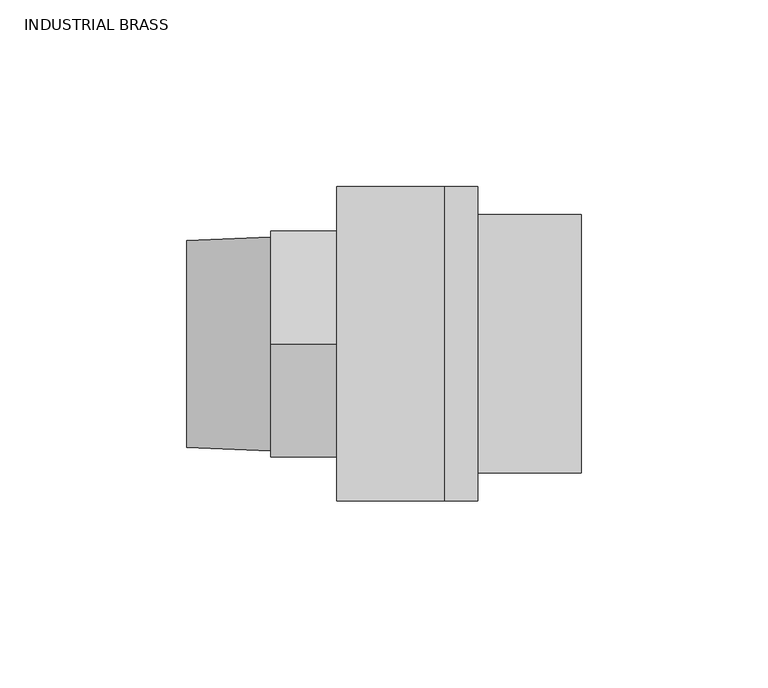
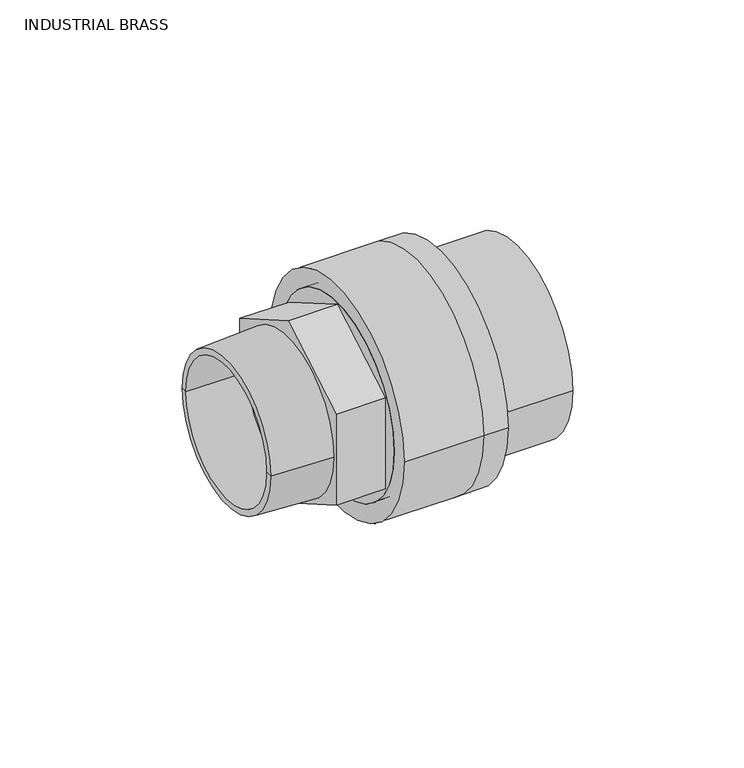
"""IFC4 building model written with IfcOpenShell, lengths in millimetres: valve geometry, Aquatherm - Transition Piece - M HEX : INDUSTRIAL BRASS."""

import ifcopenshell
import ifcopenshell.guid

model = None  # the IFC model being written
_history = None  # IfcOwnerHistory: only IFC2X3 demands one
_inside = {}  # id of a spatial element -> (the spatial element, [elements in it])
_under = {}  # id of a project, library or spatial element -> (it, [spatial elements below it])
_declared = {}  # id of a project -> (the project, [libraries it declares])
_typed = {}  # id of a type object -> (the type object, [elements of that type])
_made_of = {}  # id of a material, layer set ... -> (it, [elements and type objects made of it])


def new_model(schema):
    """Start an empty IFC model of exactly this schema.

    Asked for "IFC4X3", IfcOpenShell would pick the latest addendum, in which some entities
    have other attributes; the version numbers below select the first issue.
    IFC2X3 requires an IfcOwnerHistory on every rooted entity: one is made here for all.
    """
    global model, _history
    if schema == "IFC4X3":
        model = ifcopenshell.file(schema_version=(4, 3, 0, 0))
    else:
        model = ifcopenshell.file(schema=schema)
    _inside.clear()
    _under.clear()
    _declared.clear()
    _typed.clear()
    _made_of.clear()
    _history = None
    if model.schema == "IFC2X3":
        org = make("IfcOrganization", Name="unknown")
        user = make(
            "IfcPersonAndOrganization",
            ThePerson=make("IfcPerson", FamilyName="unknown"),
            TheOrganization=org,
        )
        app = make(
            "IfcApplication",
            ApplicationDeveloper=org,
            Version="unknown",
            ApplicationFullName="unknown",
            ApplicationIdentifier="unknown",
        )
        _history = make(
            "IfcOwnerHistory",
            OwningUser=user,
            OwningApplication=app,
            ChangeAction="ADDED",
            CreationDate=0,
        )
    return model


def make(cls, **values):
    """One entity of the class cls with the attributes given. An attribute that is None is left unset."""
    return model.create_entity(
        cls, **{name: value for name, value in values.items() if value is not None}
    )


def rooted(cls, **values):
    """An entity with a GlobalId (a new one), such as an element, a storey or a relation."""
    return make(cls, GlobalId=ifcopenshell.guid.new(), OwnerHistory=_history, **values)


def si_unit(unit_type, name, prefix=None):
    """IfcSIUnit, for example si_unit("LENGTHUNIT", "METRE", prefix="MILLI")."""
    return make("IfcSIUnit", UnitType=unit_type, Prefix=prefix, Name=name)


def assignment(units):
    """IfcUnitAssignment: the units of a project."""
    return None if units is None else make("IfcUnitAssignment", Units=units)


def point(xyz):
    """IfcCartesianPoint."""
    return None if xyz is None else make("IfcCartesianPoint", Coordinates=xyz)


def direction(xyz):
    """IfcDirection."""
    return None if xyz is None else make("IfcDirection", DirectionRatios=xyz)


def frame(location, z_axis=None, x_axis=None):
    """IfcAxis2Placement3D, a coordinate frame: its origin and axes. An axis left out is left unset."""
    return make(
        "IfcAxis2Placement3D",
        Location=point(location),
        Axis=direction(z_axis),
        RefDirection=direction(x_axis),
    )


def origin():
    """The frame at (0, 0, 0) with its axes left unset."""
    return frame((0.0, 0.0, 0.0))


def place(relative_to, where):
    """IfcLocalPlacement: puts the frame where relative to a parent placement (None: the world)."""
    return make(
        "IfcLocalPlacement", PlacementRelTo=relative_to, RelativePlacement=where
    )


def context(
    kind, dimensions, precision=None, world=None, true_north=None, identifier=None
):
    """IfcGeometricRepresentationContext, for example the 3D "Model" context."""
    return make(
        "IfcGeometricRepresentationContext",
        ContextIdentifier=identifier,
        ContextType=kind,
        CoordinateSpaceDimension=dimensions,
        Precision=precision,
        WorldCoordinateSystem=world,
        TrueNorth=true_north,
    )


def project(units=None, contexts=None):
    """IfcProject with its units and contexts."""
    return rooted(
        "IfcProject",
        Name="project",
        RepresentationContexts=contexts,
        UnitsInContext=assignment(units),
    )


def spatial(cls, under=None, at=None, **own):
    """A site, building, storey or space (cls), placed at a placement, below another one or the project."""
    s = rooted(cls, ObjectPlacement=at, **own)
    if under is not None:
        _under.setdefault(under.id(), (under, []))[1].append(s)
    return s


def polyline(points):
    """IfcPolyline through the points."""
    return make("IfcPolyline", Points=[point(p) for p in points])


def circle_curve(where, radius):
    """IfcCircle in the frame where."""
    return make("IfcCircle", Position=where, Radius=radius)


def shape(context_of_items, identifier, shape_type, items):
    """IfcShapeRepresentation: the items that make up one representation, for example the "Body"."""
    return make(
        "IfcShapeRepresentation",
        ContextOfItems=context_of_items,
        RepresentationIdentifier=identifier,
        RepresentationType=shape_type,
        Items=items,
    )


def source(mapping_origin, context_of_items, identifier, shape_type, items):
    """IfcRepresentationMap: a shape defined once, which mapped items show again and again."""
    return make(
        "IfcRepresentationMap",
        MappingOrigin=mapping_origin,
        MappedRepresentation=shape(context_of_items, identifier, shape_type, items),
    )


def transform(
    local_origin,
    x_axis=None,
    y_axis=None,
    z_axis=None,
    scale=None,
    scale2=None,
    scale3=None,
    uniform=True,
):
    """IfcCartesianTransformationOperator3D, or its non-uniform kind. x_axis, y_axis, z_axis: its Axis1, 2, 3."""
    if uniform:
        return make(
            "IfcCartesianTransformationOperator3D",
            Axis1=direction(x_axis),
            Axis2=direction(y_axis),
            LocalOrigin=point(local_origin),
            Scale=scale,
            Axis3=direction(z_axis),
        )
    return make(
        "IfcCartesianTransformationOperator3DnonUniform",
        Axis1=direction(x_axis),
        Axis2=direction(y_axis),
        LocalOrigin=point(local_origin),
        Scale=scale,
        Axis3=direction(z_axis),
        Scale2=scale2,
        Scale3=scale3,
    )


def mapped(mapping_source, mapping_target):
    """IfcMappedItem: shows the shape of a source again, moved by a transform."""
    return make(
        "IfcMappedItem", MappingSource=mapping_source, MappingTarget=mapping_target
    )


def made_of(thing, what):
    """Note that an element or type object is made of a material, layer set ...; save() writes the relation."""
    if what is not None:
        _made_of.setdefault(what.id(), (what, []))[1].append(thing)
    return thing


def element(
    cls,
    number,
    at=None,
    inside=None,
    cuts=None,
    type_object=None,
    material=None,
    context=None,
    identifier="Body",
    shape_type=None,
    held_by="IfcProductDefinitionShape",
    body=None,
    shapes=None,
    **own,
):
    """One element of the class cls, such as IfcWall. Its Tag is "e" and its number.

    at: its placement. inside: the storey or other place that contains it. cuts: it is an
    opening in that element (IfcRelVoidsElement). A single representation is given by context,
    identifier, shape_type and body (its items); several are given by shapes. held_by: the class
    of the entity that holds the representations. save() writes the other relations.
    """
    e = rooted(cls, Tag="e%d" % number, ObjectPlacement=at, **own)
    if body is not None:
        shapes = [shape(context, identifier, shape_type, body)]
    if shapes is not None:
        e.Representation = make(held_by, Representations=shapes)
    if inside is not None:
        _inside.setdefault(inside.id(), (inside, []))[1].append(e)
    if cuts is not None:
        rooted(
            "IfcRelVoidsElement", RelatingBuildingElement=cuts, RelatedOpeningElement=e
        )
    if type_object is not None:
        _typed.setdefault(type_object.id(), (type_object, []))[1].append(e)
    return made_of(e, material)


def aggregate(whole, parts):
    """IfcRelAggregates: a whole, such as a stair, and the parts it consists of."""
    return rooted("IfcRelAggregates", RelatingObject=whole, RelatedObjects=parts)


def save(model, path):
    """Write the relations noted so far, then the file.

    IfcRelAggregates (storeys below a building ...), IfcRelContainedInSpatialStructure (elements
    in a storey), IfcRelDefinesByType, IfcRelAssociatesMaterial and IfcRelDeclares: one each for
    every whole, place, type object, material and project.
    """
    for whole, parts in _under.values():
        aggregate(whole, parts)
    for where, things in _inside.values():
        rooted(
            "IfcRelContainedInSpatialStructure",
            RelatedElements=things,
            RelatingStructure=where,
        )
    for kind, things in _typed.values():
        rooted("IfcRelDefinesByType", RelatedObjects=things, RelatingType=kind)
    for what, things in _made_of.values():
        rooted("IfcRelAssociatesMaterial", RelatedObjects=things, RelatingMaterial=what)
    for by, libraries in _declared.values():
        rooted("IfcRelDeclares", RelatingContext=by, RelatedDefinitions=libraries)
    model.write(path)


def plane_surface(at):
    """IfcPlane: the flat surface through the origin of the frame at, square to its z axis."""
    return make("IfcPlane", Position=at)


def cylinder_surface(at, radius):
    """IfcCylindricalSurface: all points at the distance radius from the z axis of the frame at."""
    return make("IfcCylindricalSurface", Position=at, Radius=radius)


def revolved_surface(curve, axis_point, axis_direction):
    """IfcSurfaceOfRevolution: the curve turned about the line through axis_point along axis_direction."""
    return make(
        "IfcSurfaceOfRevolution",
        SweptCurve=make("IfcArbitraryOpenProfileDef", ProfileType="CURVE", Curve=curve),
        AxisPosition=make("IfcAxis1Placement", Location=point(axis_point), Axis=direction(axis_direction)),
    )


def advanced_brep(points, edges, surfaces, faces):
    """IfcAdvancedBrep: a solid bounded by faces that lie on surfaces and meet in shared edges.

    An edge is (start, end): straight between two places in points (the first is 0);
    or (start, end, curve); or (start, end, curve, False) where it runs against its curve.
    A face is (place in surfaces, loops), or (place, loops, False) where it looks against
    its surface's normal. A loop lists edges by number (the first is 1), with a minus sign
    where the edge is run from its end to its start. The first loop is the outer one.
    """
    corners = [point(p) for p in points]
    vertices = [make("IfcVertexPoint", VertexGeometry=c) for c in corners]
    made = []
    for start, end, *more in edges:
        made.append(
            make(
                "IfcEdgeCurve",
                EdgeStart=vertices[start],
                EdgeEnd=vertices[end],
                EdgeGeometry=more[0] if more else make("IfcPolyline", Points=[corners[start], corners[end]]),
                SameSense=more[1] if len(more) > 1 else True,
            )
        )
    hull = []
    for where, loops, *sense in faces:
        bounds = []
        for j, loop in enumerate(loops):
            ring = [make("IfcOrientedEdge", EdgeElement=made[abs(k) - 1], Orientation=k > 0) for k in loop]
            bounds.append(
                make(
                    "IfcFaceOuterBound" if j == 0 else "IfcFaceBound",
                    Bound=make("IfcEdgeLoop", EdgeList=ring),
                    Orientation=True,
                )
            )
        hull.append(make("IfcAdvancedFace", Bounds=bounds, FaceSurface=surfaces[where], SameSense=sense[0] if sense else True))
    return make("IfcAdvancedBrep", Outer=make("IfcClosedShell", CfsFaces=hull))


def industrial_brass_ecae0ea0(model_context):
    return source(origin(), model_context, "Body", "AdvancedBrep", [
        advanced_brep(
        [(28.702, -35.56, 0.0), (28.702, 35.56, 0.0), (28.702, -25.4, 0.0), (28.702, 25.4, 0.0), (0.0, -35.56, 0.0), (0.0, 35.56, 0.0), (0.0, 0.0, -34.9019785), (0.0, 30.226, -17.4509892), (0.0, 30.226, 17.4509892), (0.0, 0.0, 34.9019785), (0.0, -30.226, 17.4509892), (0.0, -30.226, -17.4509892), (0.0, -25.4, 0.0), (0.0, 25.4, 0.0), (-17.78, 0.0, -34.9019785), (-17.78, -30.226, -17.4509892), (-17.78, -30.226, 17.4509892), (-17.78, 0.0, 34.9019785), (-17.78, 30.226, 17.4509892), (-17.78, 30.226, -17.4509892), (-17.78, -28.6440302, 0.0), (-17.78, 28.6440302, 0.0), (-17.78, -25.4, 0.0), (-17.78, 25.4, 0.0), (-40.132, 25.4, 0.0), (-40.132, -25.4, 0.0), (-40.132, 27.7122198, 0.0), (-40.132, -27.7122198, 0.0)],
        [
            (0, 1, circle_curve(frame((28.702, 0.0, 0.0), z_axis=(1.0, 0.0, 0.0), x_axis=(0.0, 1.0, 0.0)), 35.56)),
            (1, 0, circle_curve(frame((28.702, 0.0, 0.0), z_axis=(1.0, 0.0, 0.0), x_axis=(0.0, 1.0, 0.0)), 35.56)),
            (2, 3, circle_curve(frame((28.702, 0.0, 0.0), z_axis=(-1.0, 0.0, 0.0), x_axis=(0.0, 1.0, 0.0)), 25.4)),
            (3, 2, circle_curve(frame((28.702, 0.0, 0.0), z_axis=(-1.0, 0.0, 0.0), x_axis=(0.0, 1.0, 0.0)), 25.4)),
            (4, 5, circle_curve(frame((0.0, 0.0, 0.0), z_axis=(-1.0, 0.0, 0.0), x_axis=(0.0, 1.0, 0.0)), 35.56)),
            (5, 4, circle_curve(frame((0.0, 0.0, 0.0), z_axis=(-1.0, 0.0, 0.0), x_axis=(0.0, 1.0, 0.0)), 35.56)),
            (6, 7),
            (7, 8),
            (8, 9),
            (9, 10),
            (10, 11),
            (11, 6),
            (0, 4),
            (5, 1),
            (2, 12),
            (12, 13, circle_curve(frame((0.0, 0.0, 0.0), z_axis=(-1.0, 0.0, 0.0), x_axis=(0.0, 1.0, 0.0)), 25.4)),
            (13, 3),
            (13, 12, circle_curve(frame((0.0, 0.0, 0.0), z_axis=(-1.0, 0.0, 0.0), x_axis=(0.0, 1.0, 0.0)), 25.4)),
            (14, 15),
            (15, 16),
            (16, 17),
            (17, 18),
            (18, 19),
            (19, 14),
            (20, 21, circle_curve(frame((-17.78, 0.0, 0.0), z_axis=(1.0, 0.0, 0.0), x_axis=(0.0, 1.0, 0.0)), 28.6440302)),
            (21, 20, circle_curve(frame((-17.78, 0.0, 0.0), z_axis=(1.0, 0.0, 0.0), x_axis=(0.0, 1.0, 0.0)), 28.6440302)),
            (19, 7),
            (6, 14),
            (18, 8),
            (17, 9),
            (16, 10),
            (15, 11),
            (12, 22),
            (22, 23, circle_curve(frame((-17.78, 0.0, 0.0), z_axis=(-1.0, 0.0, 0.0), x_axis=(0.0, 1.0, 0.0)), 25.4)),
            (23, 13),
            (23, 22, circle_curve(frame((-17.78, 0.0, 0.0), z_axis=(-1.0, 0.0, 0.0), x_axis=(0.0, 1.0, 0.0)), 25.4)),
            (23, 24),
            (24, 25, circle_curve(frame((-40.132, 0.0, 0.0), z_axis=(-1.0, 0.0, 0.0), x_axis=(0.0, 1.0, 0.0)), 25.4)),
            (25, 22),
            (25, 24, circle_curve(frame((-40.132, 0.0, 0.0), z_axis=(-1.0, 0.0, 0.0), x_axis=(0.0, 1.0, 0.0)), 25.4)),
            (24, 26),
            (26, 27, circle_curve(frame((-40.132, 0.0, 0.0), z_axis=(-1.0, 0.0, 0.0), x_axis=(0.0, 1.0, 0.0)), 27.7122198)),
            (27, 25),
            (27, 26, circle_curve(frame((-40.132, 0.0, 0.0), z_axis=(-1.0, 0.0, 0.0), x_axis=(0.0, 1.0, 0.0)), 27.7122198)),
            (26, 21),
            (20, 27),
        ],
        [
            plane_surface(frame((28.702, 35.56, 0.0), z_axis=(1.0, 0.0, 0.0), x_axis=(0.0, 0.0, 1.0))),
            plane_surface(frame((0.0, 35.56, 0.0), z_axis=(-1.0, 0.0, 0.0), x_axis=(0.0, 0.0, -1.0))),
            cylinder_surface(frame((0.0, 0.0, 0.0), z_axis=(1.0, 0.0, 0.0), x_axis=(0.0, 1.0, 0.0)), 35.56),
            revolved_surface(polyline([(0.0, 25.4, 0.0), (28.702, 25.4, 0.0)]), (17.447219, 0.0, 0.0), (-1.0, 0.0, 0.0)),
            plane_surface(frame((-17.78, 0.0, -34.9019785), z_axis=(-1.0, 0.0, 0.0), x_axis=(0.0, -0.8660254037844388, -0.4999999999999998))),
            plane_surface(frame((0.0, 0.0, -34.9019785), z_axis=(0.0, 0.4999999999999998, -0.8660254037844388), x_axis=(-1.0, 0.0, 0.0))),
            plane_surface(frame((0.0, 30.226, -17.4509892), z_axis=(0.0, 1.0, 0.0), x_axis=(-1.0, 0.0, 0.0))),
            plane_surface(frame((0.0, 30.226, 17.4509892), z_axis=(0.0, 0.4999999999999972, 0.8660254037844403), x_axis=(-1.0, 0.0, 0.0))),
            plane_surface(frame((0.0, 0.0, 34.9019785), z_axis=(0.0, -0.5000000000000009, 0.8660254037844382), x_axis=(-1.0, 0.0, 0.0))),
            plane_surface(frame((0.0, -30.226, 17.4509892), z_axis=(0.0, -1.0, 0.0), x_axis=(-1.0, 0.0, 0.0))),
            plane_surface(frame((0.0, -30.226, -17.4509892), z_axis=(0.0, -0.4999999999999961, -0.8660254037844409), x_axis=(-1.0, 0.0, 0.0))),
            revolved_surface(polyline([(-17.78, 25.4, 0.0), (0.0, 25.4, 0.0)]), (0.0, 0.0, 0.0), (-1.0, 0.0, 0.0)),
            revolved_surface(polyline([(-40.132, 25.4, 0.0), (-17.78, 25.4, 0.0)]), (-75.0050688, 0.0, 0.0), (-1.0, 0.0, 0.0)),
            plane_surface(frame((-40.132, 0.0, 0.0), z_axis=(-1.0, 0.0, 0.0), x_axis=(0.0, 1.0, 0.0))),
            revolved_surface(polyline([(-17.78, 28.6440302, 0.0), (-40.132, 27.7122198, 0.0)]), (-75.0050688, 0.0, 0.0), (-1.0, 0.0, 0.0)),
        ],
        [
            (0, [[1, 2], [3, 4]]),
            (1, [[5, 6], [7, 8, 9, 10, 11, 12]]),
            (2, [[-1, 13, -6, 14]]),
            (2, [[-2, -14, -5, -13]]),
            (3, [[-3, 15, 16, 17]]),
            (3, [[-4, -17, 18, -15]]),
            (4, [[19, 20, 21, 22, 23, 24], [25, 26]]),
            (5, [[-24, 27, -7, 28]]),
            (6, [[-23, 29, -8, -27]]),
            (7, [[-22, 30, -9, -29]]),
            (8, [[-21, 31, -10, -30]]),
            (9, [[-20, 32, -11, -31]]),
            (10, [[-19, -28, -12, -32]]),
            (11, [[33, 34, 35, -16]]),
            (11, [[-33, -18, -35, 36]]),
            (12, [[37, 38, 39, -36]]),
            (12, [[-37, -34, -39, 40]]),
            (13, [[-38, 41, 42, 43]]),
            (13, [[-40, -43, 44, -41]]),
            (14, [[-42, 45, -25, 46]]),
            (14, [[-44, -46, -26, -45]]),
        ],
    ),
        advanced_brep(
        [(0.0, -42.037, 0.0), (0.0, 42.037, 0.0), (0.0, -35.56, 0.0), (0.0, 35.56, 0.0), (28.702, 42.037, 0.0), (28.702, -42.037, 0.0), (28.702, 35.56, 0.0), (28.702, -35.56, 0.0), (37.592, -42.037, 0.0), (37.592, 42.037, 0.0), (37.592, 34.544, 0.0), (37.592, -34.544, 0.0), (37.592, 31.496, 0.0), (37.592, -31.496, 0.0), (37.592, -25.4, 0.0), (37.592, 25.4, 0.0), (28.702, -25.4, 0.0), (28.702, 25.4, 0.0), (65.278, -34.544, 0.0), (65.278, 34.544, 0.0), (65.278, -31.496, 0.0), (65.278, 31.496, 0.0)],
        [
            (0, 1, circle_curve(frame((0.0, 0.0, 0.0), z_axis=(-1.0, 0.0, 0.0), x_axis=(0.0, 1.0, 0.0)), 42.037)),
            (1, 0, circle_curve(frame((0.0, 0.0, 0.0), z_axis=(-1.0, 0.0, 0.0), x_axis=(0.0, 1.0, 0.0)), 42.037)),
            (2, 3, circle_curve(frame((0.0, 0.0, 0.0), z_axis=(1.0, 0.0, 0.0), x_axis=(0.0, 1.0, 0.0)), 35.56)),
            (3, 2, circle_curve(frame((0.0, 0.0, 0.0), z_axis=(1.0, 0.0, 0.0), x_axis=(0.0, 1.0, 0.0)), 35.56)),
            (1, 4),
            (4, 5, circle_curve(frame((28.702, 0.0, 0.0), z_axis=(-1.0, 0.0, 0.0), x_axis=(0.0, 1.0, 0.0)), 42.037)),
            (5, 0),
            (5, 4, circle_curve(frame((28.702, 0.0, 0.0), z_axis=(-1.0, 0.0, 0.0), x_axis=(0.0, 1.0, 0.0)), 42.037)),
            (3, 6),
            (6, 7, circle_curve(frame((28.702, 0.0, 0.0), z_axis=(1.0, 0.0, 0.0), x_axis=(0.0, 1.0, 0.0)), 35.56)),
            (7, 2),
            (7, 6, circle_curve(frame((28.702, 0.0, 0.0), z_axis=(1.0, 0.0, 0.0), x_axis=(0.0, 1.0, 0.0)), 35.56)),
            (8, 9, circle_curve(frame((37.592, 0.0, 0.0), z_axis=(1.0, 0.0, 0.0), x_axis=(0.0, 1.0, 0.0)), 42.037)),
            (9, 8, circle_curve(frame((37.592, 0.0, 0.0), z_axis=(1.0, 0.0, 0.0), x_axis=(0.0, 1.0, 0.0)), 42.037)),
            (10, 11, circle_curve(frame((37.592, 0.0, 0.0), z_axis=(-1.0, 0.0, 0.0), x_axis=(0.0, 1.0, 0.0)), 34.544)),
            (11, 10, circle_curve(frame((37.592, 0.0, 0.0), z_axis=(-1.0, 0.0, 0.0), x_axis=(0.0, 1.0, 0.0)), 34.544)),
            (12, 13, circle_curve(frame((37.592, 0.0, 0.0), z_axis=(1.0, 0.0, 0.0), x_axis=(0.0, 1.0, 0.0)), 31.496)),
            (13, 12, circle_curve(frame((37.592, 0.0, 0.0), z_axis=(1.0, 0.0, 0.0), x_axis=(0.0, 1.0, 0.0)), 31.496)),
            (14, 15, circle_curve(frame((37.592, 0.0, 0.0), z_axis=(-1.0, 0.0, 0.0), x_axis=(0.0, 1.0, 0.0)), 25.4)),
            (15, 14, circle_curve(frame((37.592, 0.0, 0.0), z_axis=(-1.0, 0.0, 0.0), x_axis=(0.0, 1.0, 0.0)), 25.4)),
            (16, 17, circle_curve(frame((28.702, 0.0, 0.0), z_axis=(1.0, 0.0, 0.0), x_axis=(0.0, 1.0, 0.0)), 25.4)),
            (17, 16, circle_curve(frame((28.702, 0.0, 0.0), z_axis=(1.0, 0.0, 0.0), x_axis=(0.0, 1.0, 0.0)), 25.4)),
            (8, 5),
            (4, 9),
            (14, 16),
            (17, 15),
            (18, 19, circle_curve(frame((65.278, 0.0, 0.0), z_axis=(1.0, 0.0, 0.0), x_axis=(0.0, 1.0, 0.0)), 34.544)),
            (19, 18, circle_curve(frame((65.278, 0.0, 0.0), z_axis=(1.0, 0.0, 0.0), x_axis=(0.0, 1.0, 0.0)), 34.544)),
            (20, 21, circle_curve(frame((65.278, 0.0, 0.0), z_axis=(-1.0, 0.0, 0.0), x_axis=(0.0, 1.0, 0.0)), 31.496)),
            (21, 20, circle_curve(frame((65.278, 0.0, 0.0), z_axis=(-1.0, 0.0, 0.0), x_axis=(0.0, 1.0, 0.0)), 31.496)),
            (18, 11),
            (10, 19),
            (20, 13),
            (12, 21),
        ],
        [
            plane_surface(frame((0.0, 42.037, 0.0), z_axis=(-1.0, 0.0, 0.0), x_axis=(0.0, 0.0, -1.0))),
            cylinder_surface(frame((0.0, 0.0, 0.0), z_axis=(1.0, 0.0, 0.0), x_axis=(0.0, 1.0, 0.0)), 42.037),
            revolved_surface(polyline([(0.0, 35.56, 0.0), (28.702000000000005, 35.56, 0.0)]), (-38.1, 0.0, 0.0), (-1.0, 0.0, 0.0)),
            plane_surface(frame((37.592, 42.037, 0.0), z_axis=(1.0, 0.0, 0.0), x_axis=(0.0, 0.0, 1.0))),
            plane_surface(frame((28.702, 42.037, 0.0), z_axis=(-1.0, 0.0, 0.0), x_axis=(0.0, 0.0, -1.0))),
            cylinder_surface(frame((28.702, 0.0, 0.0), z_axis=(1.0, 0.0, 0.0), x_axis=(0.0, 1.0, 0.0)), 42.037),
            revolved_surface(polyline([(28.702, 25.4, 0.0), (37.592, 25.4, 0.0)]), (-19.05, 0.0, 0.0), (-1.0, 0.0, 0.0)),
            plane_surface(frame((65.278, 34.544, 0.0), z_axis=(1.0, 0.0, 0.0), x_axis=(0.0, 0.0, 1.0))),
            cylinder_surface(frame((37.592, 0.0, 0.0), z_axis=(1.0, 0.0, 0.0), x_axis=(0.0, 1.0, 0.0)), 34.544),
            revolved_surface(polyline([(37.592, 31.496, 0.0), (65.278, 31.496, 0.0)]), (0.0, 0.0, 0.0), (-1.0, 0.0, 0.0)),
        ],
        [
            (0, [[1, 2], [3, 4]]),
            (1, [[-2, 5, 6, 7]]),
            (1, [[-1, -7, 8, -5]]),
            (2, [[-4, 9, 10, 11]]),
            (2, [[-3, -11, 12, -9]]),
            (3, [[13, 14], [15, 16]]),
            (3, [[17, 18], [19, 20]]),
            (4, [[-10, -12], [21, 22]]),
            (5, [[-13, 23, -6, 24]]),
            (5, [[-14, -24, -8, -23]]),
            (6, [[-19, 25, -22, 26]]),
            (6, [[-20, -26, -21, -25]]),
            (7, [[27, 28], [29, 30]]),
            (8, [[-27, 31, -15, 32]]),
            (8, [[-28, -32, -16, -31]]),
            (9, [[-29, 33, -17, 34]]),
            (9, [[-30, -34, -18, -33]]),
        ],
    ),
    ])


if __name__ == "__main__":
    model = new_model("IFC4")
    model_context = context("Model", 3, world=origin())
    ifc_project = project(units=[si_unit("LENGTHUNIT", "METRE", prefix="MILLI")], contexts=[model_context])
    site = spatial("IfcSite", under=ifc_project)
    building = spatial("IfcBuilding", under=site)
    placement = place(None, origin())
    industrial_brass_shape = industrial_brass_ecae0ea0(model_context)
    element("IfcValve", 1, ObjectType="Aquatherm - Transition Piece - M HEX : INDUSTRIAL BRASS", at=placement, inside=building, context=model_context, shape_type="MappedRepresentation", body=[
        mapped(industrial_brass_shape, transform((0.0, 0.0, 0.0), x_axis=(1.0, 0.0, 0.0), y_axis=(0.0, 1.0, 0.0), z_axis=(0.0, 0.0, 1.0))),
    ])
    save(model, "model.ifc")
